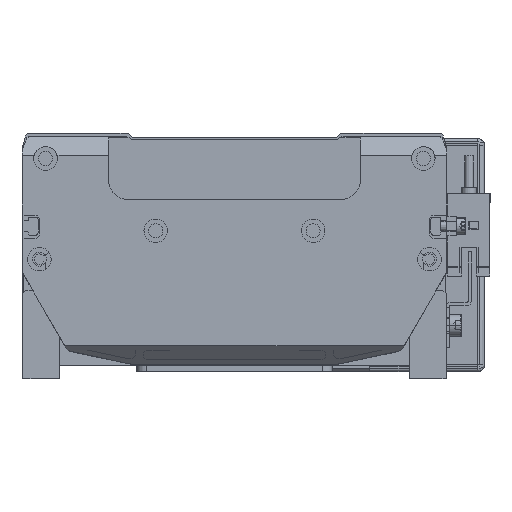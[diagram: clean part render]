
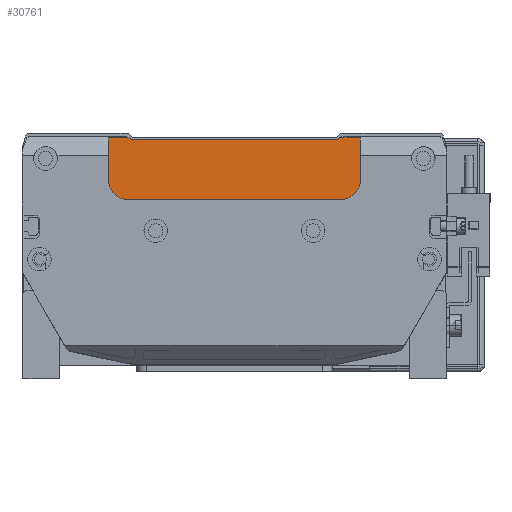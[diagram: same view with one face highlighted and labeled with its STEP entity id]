
A CAD part, front view. The second image highlights one B-rep face of the part: STEP entity #30761.
In plain terms, the highlighted planar face has unit normal (0, -1, 0) as drawn and (0, 0, -1) by its records, which use the part's own axes.
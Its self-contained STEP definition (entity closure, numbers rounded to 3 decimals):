
#500 = DIRECTION ( 'NONE',  ( 0., 1., 0. ) ) ;
#1013 = VECTOR ( 'NONE', #9981, 1000. ) ;
#1092 = CIRCLE ( 'NONE', #16808, 6. ) ;
#2115 = ORIENTED_EDGE ( 'NONE', *, *, #41415, .T. ) ;
#3360 = CARTESIAN_POINT ( 'NONE',  ( 3.604, 2., -364. ) ) ;
#4095 = LINE ( 'NONE', #36207, #28977 ) ;
#5828 = CARTESIAN_POINT ( 'NONE',  ( -28.893, 2., -364. ) ) ;
#6005 = VERTEX_POINT ( 'NONE', #33614 ) ;
#6272 = LINE ( 'NONE', #23746, #14093 ) ;
#7217 = VERTEX_POINT ( 'NONE', #11359 ) ;
#7956 = FACE_OUTER_BOUND ( 'NONE', #11898, .T. ) ;
#8884 = VERTEX_POINT ( 'NONE', #22707 ) ;
#9199 = LINE ( 'NONE', #3360, #42876 ) ;
#9638 = EDGE_CURVE ( 'NONE', #31369, #38391, #15440, .T. ) ;
#9831 = EDGE_CURVE ( 'NONE', #25107, #31369, #9199, .T. ) ;
#9981 = DIRECTION ( 'NONE',  ( 1., 0., 0. ) ) ;
#10980 = CARTESIAN_POINT ( 'NONE',  ( -30.396, 21., -364. ) ) ;
#11359 = CARTESIAN_POINT ( 'NONE',  ( 43.604, 15., -364. ) ) ;
#11898 = EDGE_LOOP ( 'NONE', ( #15921, #32320, #41328, #19031, #2115, #20422, #42886, #34486, #31178, #18236 ) ) ;
#13357 = DIRECTION ( 'NONE',  ( -1., 0., 0. ) ) ;
#13761 = VERTEX_POINT ( 'NONE', #21671 ) ;
#13931 = DIRECTION ( 'NONE',  ( 0.894, -0.447, 0. ) ) ;
#14093 = VECTOR ( 'NONE', #33414, 1000. ) ;
#15440 = LINE ( 'NONE', #5828, #16509 ) ;
#15921 = ORIENTED_EDGE ( 'NONE', *, *, #9638, .T. ) ;
#16251 = VECTOR ( 'NONE', #500, 1000. ) ;
#16509 = VECTOR ( 'NONE', #41884, 1000. ) ;
#16808 = AXIS2_PLACEMENT_3D ( 'NONE', #27890, #18091, #40901 ) ;
#17014 = CARTESIAN_POINT ( 'NONE',  ( 3.604, 25., -364. ) ) ;
#17172 = EDGE_CURVE ( 'NONE', #25107, #18487, #4095, .T. ) ;
#17868 = CARTESIAN_POINT ( 'NONE',  ( 43.604, 25., -364. ) ) ;
#18091 = DIRECTION ( 'NONE',  ( 0., 0., -1. ) ) ;
#18236 = ORIENTED_EDGE ( 'NONE', *, *, #9831, .T. ) ;
#18487 = VERTEX_POINT ( 'NONE', #40046 ) ;
#19031 = ORIENTED_EDGE ( 'NONE', *, *, #19475, .T. ) ;
#19127 = VECTOR ( 'NONE', #39677, 1000. ) ;
#19475 = EDGE_CURVE ( 'NONE', #41057, #42607, #1092, .T. ) ;
#19909 = PLANE ( 'NONE',  #37913 ) ;
#20157 = LINE ( 'NONE', #33150, #19127 ) ;
#20422 = ORIENTED_EDGE ( 'NONE', *, *, #35017, .T. ) ;
#21152 = DIRECTION ( 'NONE',  ( 0., -1., 0. ) ) ;
#21671 = CARTESIAN_POINT ( 'NONE',  ( -36.396, 1.5, -364. ) ) ;
#22707 = CARTESIAN_POINT ( 'NONE',  ( 43.604, 1.5, -364. ) ) ;
#23746 = CARTESIAN_POINT ( 'NONE',  ( 3.604, 1.5, -364. ) ) ;
#25107 = VERTEX_POINT ( 'NONE', #29214 ) ;
#25265 = EDGE_CURVE ( 'NONE', #38391, #13761, #6272, .T. ) ;
#27890 = CARTESIAN_POINT ( 'NONE',  ( -30.396, 15., -364. ) ) ;
#28977 = VECTOR ( 'NONE', #13931, 1000. ) ;
#29214 = CARTESIAN_POINT ( 'NONE',  ( 36.1, 2., -364. ) ) ;
#30761 = ADVANCED_FACE ( 'NONE', ( #7956 ), #19909, .T. ) ;
#31178 = ORIENTED_EDGE ( 'NONE', *, *, #17172, .F. ) ;
#31240 = LINE ( 'NONE', #40166, #16251 ) ;
#31369 = VERTEX_POINT ( 'NONE', #41361 ) ;
#32320 = ORIENTED_EDGE ( 'NONE', *, *, #25265, .T. ) ;
#32964 = CARTESIAN_POINT ( 'NONE',  ( 3.604, 21., -364. ) ) ;
#33150 = CARTESIAN_POINT ( 'NONE',  ( 3.604, 1.5, -364. ) ) ;
#33183 = DIRECTION ( 'NONE',  ( -1., 0., 0. ) ) ;
#33414 = DIRECTION ( 'NONE',  ( -1., 0., 0. ) ) ;
#33614 = CARTESIAN_POINT ( 'NONE',  ( 37.604, 21., -364. ) ) ;
#33638 = LINE ( 'NONE', #17868, #40382 ) ;
#34486 = ORIENTED_EDGE ( 'NONE', *, *, #37306, .T. ) ;
#35017 = EDGE_CURVE ( 'NONE', #6005, #7217, #41982, .T. ) ;
#35226 = AXIS2_PLACEMENT_3D ( 'NONE', #40542, #40822, #37368 ) ;
#35962 = EDGE_CURVE ( 'NONE', #7217, #8884, #33638, .T. ) ;
#36207 = CARTESIAN_POINT ( 'NONE',  ( 0.903, 19.599, -364. ) ) ;
#36369 = DIRECTION ( 'NONE',  ( 0., 0., -1. ) ) ;
#36931 = CARTESIAN_POINT ( 'NONE',  ( -29.893, 1.5, -364. ) ) ;
#37306 = EDGE_CURVE ( 'NONE', #8884, #18487, #20157, .T. ) ;
#37368 = DIRECTION ( 'NONE',  ( 1., 0., 0. ) ) ;
#37913 = AXIS2_PLACEMENT_3D ( 'NONE', #17014, #36369, #13357 ) ;
#38329 = LINE ( 'NONE', #32964, #1013 ) ;
#38391 = VERTEX_POINT ( 'NONE', #36931 ) ;
#39303 = EDGE_CURVE ( 'NONE', #13761, #41057, #31240, .T. ) ;
#39677 = DIRECTION ( 'NONE',  ( -1., 0., 0. ) ) ;
#40046 = CARTESIAN_POINT ( 'NONE',  ( 37.1, 1.5, -364. ) ) ;
#40166 = CARTESIAN_POINT ( 'NONE',  ( -36.396, 25., -364. ) ) ;
#40382 = VECTOR ( 'NONE', #21152, 1000. ) ;
#40542 = CARTESIAN_POINT ( 'NONE',  ( 37.604, 15., -364. ) ) ;
#40822 = DIRECTION ( 'NONE',  ( 0., 0., -1. ) ) ;
#40901 = DIRECTION ( 'NONE',  ( 1., 0., 0. ) ) ;
#41057 = VERTEX_POINT ( 'NONE', #41397 ) ;
#41328 = ORIENTED_EDGE ( 'NONE', *, *, #39303, .T. ) ;
#41361 = CARTESIAN_POINT ( 'NONE',  ( -28.893, 2., -364. ) ) ;
#41397 = CARTESIAN_POINT ( 'NONE',  ( -36.396, 15., -364. ) ) ;
#41415 = EDGE_CURVE ( 'NONE', #42607, #6005, #38329, .T. ) ;
#41884 = DIRECTION ( 'NONE',  ( -0.894, -0.447, 0. ) ) ;
#41982 = CIRCLE ( 'NONE', #35226, 6. ) ;
#42607 = VERTEX_POINT ( 'NONE', #10980 ) ;
#42876 = VECTOR ( 'NONE', #33183, 1000. ) ;
#42886 = ORIENTED_EDGE ( 'NONE', *, *, #35962, .T. ) ;
